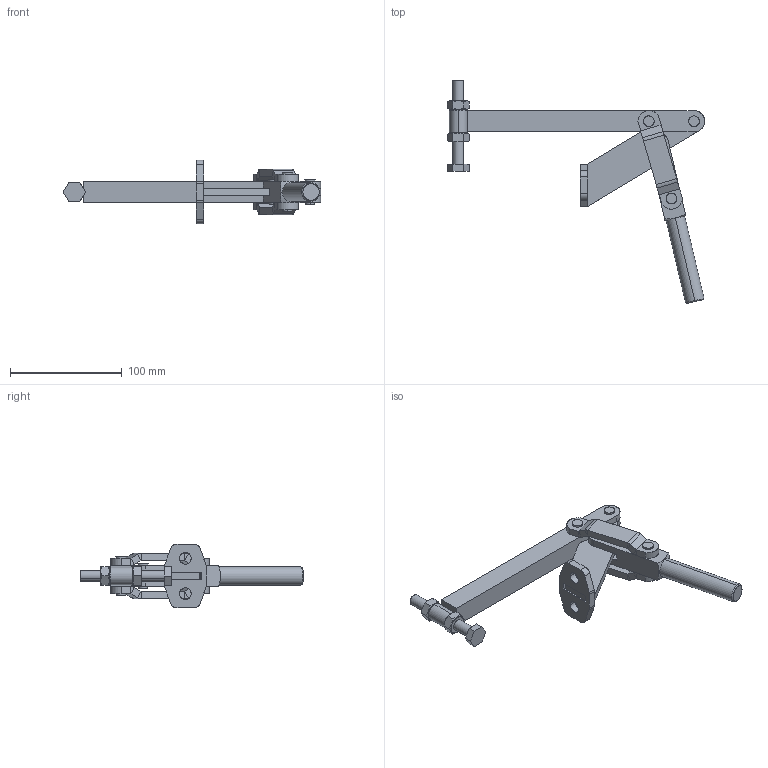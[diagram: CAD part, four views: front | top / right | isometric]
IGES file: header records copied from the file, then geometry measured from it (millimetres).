
Start section: SolidWorks IGES file using analytic representation for surfaces
Global section: file name: C:\Projetos\Grampos\KF-725\KF-725 F\KF-725 F.IGS; native system: SolidWorks 2011; preprocessor: SolidWorks 2011; author: Usuario; date: 110602.105843; units: millimetre
Bounding box: 230.75 x 199.91 x 57.2 mm (x, y, z)
Surface area: 64545.4 mm2 (no closed solid volume)
Topology: 0 solids, 0 shells, 280 faces, 3956 edges, 3948 vertices
Faces by surface type: bspline 142, revolution 138
